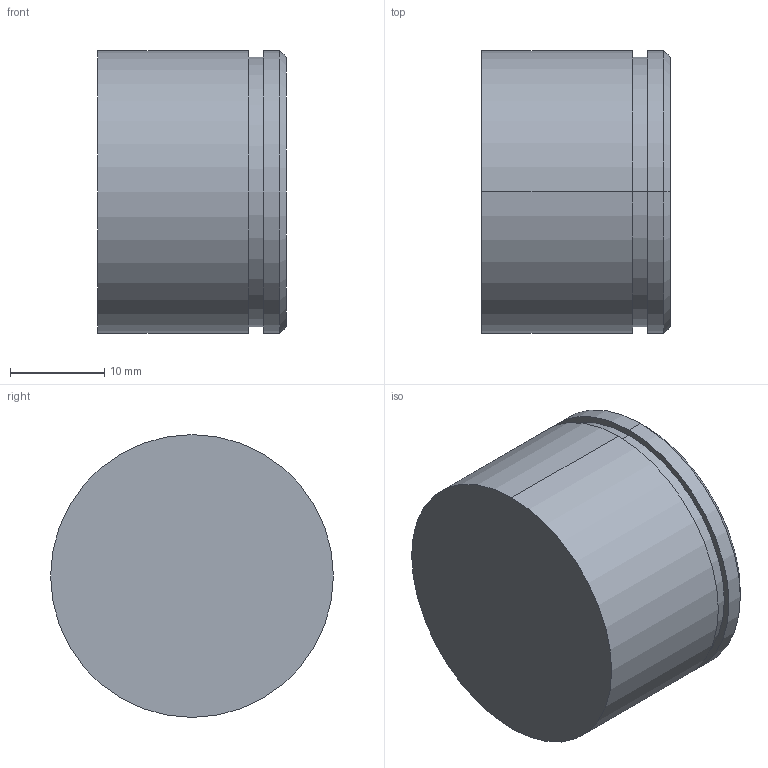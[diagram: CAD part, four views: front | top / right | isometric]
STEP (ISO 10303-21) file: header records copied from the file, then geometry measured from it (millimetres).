
FILE_DESCRIPTION (( 'STEP AP203' ), '1' );
FILE_NAME ('S5-30.STEP', '2002-08-16T10:51:00', ( '.' ), ( '.' ), 'SwSTEP 2.0', 'SolidWorks 2001340', '' );
FILE_SCHEMA (( 'CONFIG_CONTROL_DESIGN' ));
Length unit declared in the file: millimetre
Products named in the file (1): S5-30
Bounding box: 20 x 30 x 30 mm (x, y, z)
Volume: 14011.3 mm3; surface area: 3381.2 mm2
Topology: 1 solids, 1 shells, 12 faces, 22 edges, 14 vertices
Faces by surface type: cylinder 6, plane 4, cone 2
Entity records: 381 total; most frequent: DIRECTION 62, CARTESIAN_POINT 49, ORIENTED_EDGE 44, AXIS2_PLACEMENT_3D 27, EDGE_CURVE 22, VERTEX_POINT 14, EDGE_LOOP 14, CIRCLE 14
